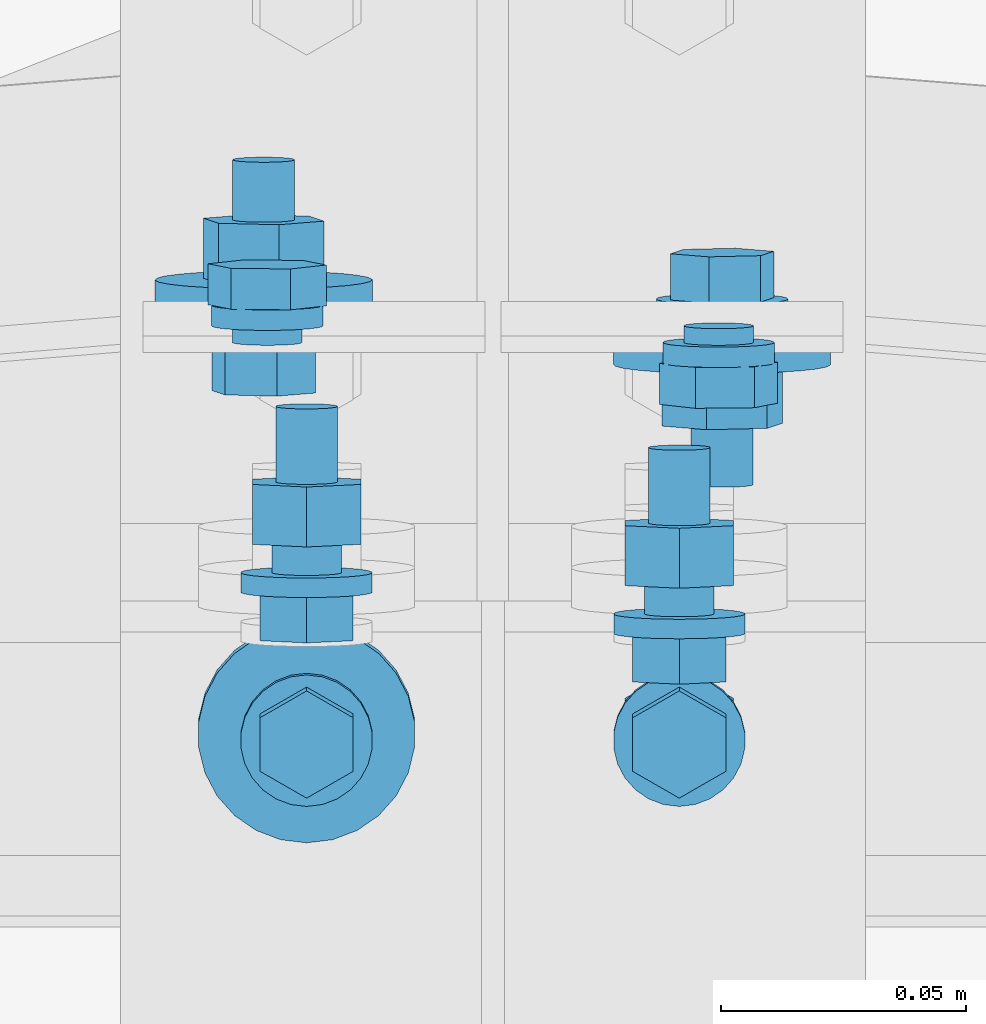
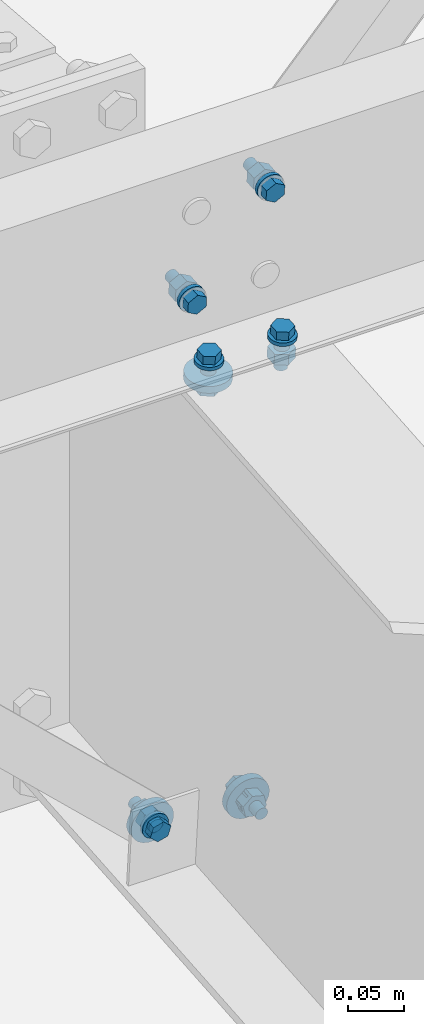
# One storey, part 133 of 185: 8 mechanical fasteners, 5 elements without a shape of their own.
"""IFC2X3 building model written with IfcOpenShell, lengths in millimetres."""

from ifc_helpers import new_model, si_unit, frame, origin_with_axes, origin_2d_with_axis, place, context, subcontext, project, spatial, polyline, circle, outline, extrude, source, transform, mapped, material, type_object, element, aggregate, save


model = new_model("IFC2X3")

# Units and contexts
model_context = context("Model", 3, precision=1e-05, world=origin_with_axes())
body_context = subcontext(model_context, "Body", "Model", "MODEL_VIEW")
ifc_project = project(units=[si_unit("LENGTHUNIT", "METRE", prefix="MILLI"), si_unit("AREAUNIT", "SQUARE_METRE"), si_unit("VOLUMEUNIT", "CUBIC_METRE"), si_unit("MASSUNIT", "GRAM", prefix="KILO"), si_unit("TIMEUNIT", "SECOND"), si_unit("PLANEANGLEUNIT", "RADIAN"), si_unit("SOLIDANGLEUNIT", "STERADIAN"), si_unit("THERMODYNAMICTEMPERATUREUNIT", "DEGREE_CELSIUS"), si_unit("LUMINOUSINTENSITYUNIT", "LUMEN")], contexts=[model_context])

# Site, building, storey
site_placement = place(None, origin_with_axes())
site = spatial("IfcSite", under=ifc_project, at=site_placement, Name="Undefined", CompositionType="ELEMENT")
building_placement = place(site_placement, origin_with_axes())
building = spatial("IfcBuilding", under=site, at=building_placement, Name="Undefined", CompositionType="ELEMENT")
storey_placement = place(building_placement, origin_with_axes())
storey = spatial("IfcBuildingStorey", under=building, at=storey_placement, Name="Undefined", CompositionType="ELEMENT", Elevation=0.0)

# Assembly, mechanical fastener
assembly_1_placement = place(storey_placement, origin_with_axes())
assembly_1 = element("IfcElementAssembly", 1, at=assembly_1_placement, inside=storey, Name="Steel Assembly", AssemblyPlace="NOTDEFINED", PredefinedType="RIGID_FRAME")
ifc_material_1 = material(Name="Undefined")
discrete_accessory_type = type_object("IfcDiscreteAccessoryType", Name="Bolt assembly")
shared_shape_1 = source(origin_with_axes(), body_context, "Body", "SweptSolid", [
    extrude(circle(Radius=7.14374971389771, at=origin_2d_with_axis()), frame((0.0, -1.59000001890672, 0.0), z_axis=(0.0, 1.0, 0.0), x_axis=(1.0, 0.0, 0.0)), (0.0, 0.0, 1.0), 1.7),
    extrude(outline(polyline([(10.9985221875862, 0.0), (5.4992610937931, 9.52499961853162), (-5.4992610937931, 9.52499961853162), (-10.9985221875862, 0.0), (-5.4992610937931, -9.52499961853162), (5.4992610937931, -9.52499961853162), (10.9985221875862, 0.0)])), frame((0.0, -15.0837496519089, 0.0), z_axis=(0.0, 1.0, 0.0), x_axis=(1.0, 0.0, 0.0)), (0.0, 0.0, 1.0), 9.5),
    extrude(circle(Radius=6.34999990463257, at=origin_2d_with_axis()), frame((0.0, -5.5587500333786, 0.0), z_axis=(0.0, 1.0, 0.0), x_axis=(1.0, 0.0, 0.0)), (0.0, 0.0, 1.0), 38.1),
    extrude(circle(Radius=13.4937496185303, at=origin_2d_with_axis()), frame((0.0, -5.5587500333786, 0.0), z_axis=(0.0, 1.0, 0.0), x_axis=(1.0, 0.0, 0.0)), (0.0, 0.0, 1.0), 4.0),
    extrude(circle(Radius=22.2250003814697, at=origin_2d_with_axis()), frame((0.0, 0.0, 0.0), z_axis=(0.0, 1.0, 0.0), x_axis=(1.0, 0.0, 0.0)), (0.0, 0.0, 1.0), 7.9),
    extrude(outline(polyline([(12.8316099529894, 0.0), (6.4158049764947, 11.1125001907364), (-6.4158049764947, 11.1125001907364), (-12.8316099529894, 0.0), (-6.4158049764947, -11.1125001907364), (6.4158049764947, -11.1125001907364), (12.8316099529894, 0.0)])), frame((0.0, 7.93750000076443, 0.0), z_axis=(0.0, 1.0, 0.0), x_axis=(1.0, 0.0, 0.0)), (0.0, 0.0, 1.0), 12.3),
])
mechanical_fastener_1_placement = place(assembly_1_placement, frame((14905.8744956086, 15761.3452081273, 6647.08460517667), z_axis=(0.697745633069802, 0.0594892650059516, -0.713871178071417), x_axis=(0.716345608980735, -0.0579446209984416, 0.695335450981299)))
mechanical_fastener_1 = element("IfcMechanicalFastener", 2, at=mechanical_fastener_1_placement, type_object=discrete_accessory_type, material=ifc_material_1, Name="Bolt assembly", NominalDiameter=12.6999998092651, NominalLength=38.0999984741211, context=body_context, shape_type="MappedRepresentation", body=[
    mapped(shared_shape_1, transform((0.0, 0.0, 0.0))),
])
aggregate(assembly_1, [mechanical_fastener_1])

assembly_2_placement = place(storey_placement, origin_with_axes())
assembly_2 = element("IfcElementAssembly", 3, at=assembly_2_placement, inside=storey, Name="Steel Assembly", AssemblyPlace="NOTDEFINED", PredefinedType="RIGID_FRAME")
shared_shape_2 = source(origin_with_axes(), body_context, "Body", "SweptSolid", [
    extrude(circle(Radius=7.14374971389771, at=origin_2d_with_axis()), frame((0.0, 0.0, 0.0), z_axis=(0.0, 1.0, 0.0), x_axis=(1.0, 0.0, 0.0)), (0.0, 0.0, 1.0), 1.7),
    extrude(outline(polyline([(10.9985221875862, 0.0), (5.4992610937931, 9.52499961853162), (-5.4992610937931, 9.52499961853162), (-10.9985221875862, 0.0), (-5.4992610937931, -9.52499961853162), (5.4992610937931, -9.52499961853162), (10.9985221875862, 0.0)])), frame((0.0, -13.4937496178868, 0.0), z_axis=(0.0, 1.0, 0.0), x_axis=(1.0, 0.0, 0.0)), (0.0, 0.0, 1.0), 9.5),
    extrude(circle(Radius=6.34999990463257, at=origin_2d_with_axis()), frame((0.0, -3.96874999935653, 0.0), z_axis=(0.0, 1.0, 0.0), x_axis=(1.0, 0.0, 0.0)), (0.0, 0.0, 1.0), 38.1),
    extrude(circle(Radius=13.4937496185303, at=origin_2d_with_axis()), frame((0.0, -3.96874999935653, 0.0), z_axis=(0.0, 1.0, 0.0), x_axis=(1.0, 0.0, 0.0)), (0.0, 0.0, 1.0), 4.0),
    extrude(circle(Radius=22.2250003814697, at=origin_2d_with_axis()), frame((0.0, 1.5900000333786, 0.0), z_axis=(0.0, 1.0, 0.0), x_axis=(1.0, 0.0, 0.0)), (0.0, 0.0, 1.0), 7.9),
    extrude(outline(polyline([(12.8316099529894, 0.0), (6.4158049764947, 11.1125001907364), (-6.4158049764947, 11.1125001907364), (-12.8316099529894, 0.0), (-6.4158049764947, -11.1125001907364), (6.4158049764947, -11.1125001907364), (12.8316099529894, 0.0)])), frame((0.0, 9.5275000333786, 0.0), z_axis=(0.0, 1.0, 0.0), x_axis=(1.0, 0.0, 0.0)), (0.0, 0.0, 1.0), 12.3),
])
mechanical_fastener_2_placement = place(assembly_2_placement, frame((14812.1255043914, 15761.3452081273, 6647.08460517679), z_axis=(-0.697745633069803, 0.0594892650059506, -0.713871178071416), x_axis=(-0.716345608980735, -0.0579446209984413, 0.6953354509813)))
mechanical_fastener_2 = element("IfcMechanicalFastener", 4, at=mechanical_fastener_2_placement, type_object=discrete_accessory_type, material=ifc_material_1, Name="Bolt assembly", NominalDiameter=12.6999998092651, NominalLength=38.0999984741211, context=body_context, shape_type="MappedRepresentation", body=[
    mapped(shared_shape_2, transform((0.0, 0.0, 0.0))),
])
aggregate(assembly_2, [mechanical_fastener_2])

# Assembly, mechanical fasteners
assembly_3_placement = place(storey_placement, origin_with_axes())
assembly_3 = element("IfcElementAssembly", 5, at=assembly_3_placement, inside=storey, Name="Steel Assembly", AssemblyPlace="NOTDEFINED", PredefinedType="RIGID_FRAME")
ifc_material_2 = material(Name="7990")
shared_shape_3 = source(origin_with_axes(), body_context, "Body", "SweptSolid", [
    extrude(circle(Radius=7.14374971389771, at=origin_2d_with_axis()), frame((0.0, -3.41600000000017, 0.0), z_axis=(0.0, 1.0, 0.0), x_axis=(1.0, 0.0, 0.0)), (0.0, 0.0, 1.0), 3.5),
    extrude(circle(Radius=11.4299998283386, at=origin_2d_with_axis()), frame((0.0, 0.0, 0.0), z_axis=(0.0, 1.0, 0.0), x_axis=(1.0, 0.0, 0.0)), (0.0, 0.0, 1.0), 4.2),
    extrude(outline(polyline([(12.171698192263, 0.0), (6.08584909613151, 10.5409998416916), (-6.08584909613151, 10.5409998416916), (-12.171698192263, 0.0), (-6.08584909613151, -10.5409998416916), (6.08584909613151, -10.5409998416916), (12.171698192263, 0.0)])), frame((0.0, 4.1909999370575, 0.0), z_axis=(0.0, 1.0, 0.0), x_axis=(1.0, 0.0, 0.0)), (0.0, 0.0, 1.0), 8.4),
])
mechanical_fastener_3_placement = place(assembly_3_placement, frame((14812.84185, 15761.4031527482, 6646.38926972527), z_axis=(0.921635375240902, 0.0322263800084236, -0.386716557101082), x_axis=(-0.388056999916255, 0.0765376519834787, -0.9184518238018)))
mechanical_fastener_3 = element("IfcMechanicalFastener", 6, at=mechanical_fastener_3_placement, type_object=discrete_accessory_type, material=ifc_material_2, Name="Bolt assembly", NominalDiameter=12.6999998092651, NominalLength=38.0999984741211, context=body_context, shape_type="MappedRepresentation", body=[
    mapped(shared_shape_3, transform((0.0, 0.0, 0.0))),
])
shared_shape_4 = source(origin_with_axes(), body_context, "Body", "SweptSolid", [
    extrude(circle(Radius=7.14374971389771, at=origin_2d_with_axis()), frame((0.0, 0.0, 0.0), z_axis=(0.0, 1.0, 0.0), x_axis=(1.0, 0.0, 0.0)), (0.0, 0.0, 1.0), 3.5),
    extrude(circle(Radius=11.4299998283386, at=origin_2d_with_axis()), frame((0.0, 3.41600000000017, 0.0), z_axis=(0.0, 1.0, 0.0), x_axis=(1.0, 0.0, 0.0)), (0.0, 0.0, 1.0), 4.2),
    extrude(outline(polyline([(12.171698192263, 0.0), (6.08584909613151, 10.5409998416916), (-6.08584909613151, 10.5409998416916), (-12.171698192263, 0.0), (-6.08584909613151, -10.5409998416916), (6.08584909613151, -10.5409998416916), (12.171698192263, 0.0)])), frame((0.0, 7.60699993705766, 0.0), z_axis=(0.0, 1.0, 0.0), x_axis=(1.0, 0.0, 0.0)), (0.0, 0.0, 1.0), 8.4),
])
mechanical_fastener_4_placement = place(assembly_3_placement, frame((14905.15815, 15761.4031527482, 6646.38926972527), z_axis=(-0.921635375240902, 0.0322263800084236, -0.386716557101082), x_axis=(0.388056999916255, 0.0765376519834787, -0.9184518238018)))
mechanical_fastener_4 = element("IfcMechanicalFastener", 7, at=mechanical_fastener_4_placement, type_object=discrete_accessory_type, material=ifc_material_2, Name="Bolt assembly", NominalDiameter=12.6999998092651, NominalLength=38.0999984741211, context=body_context, shape_type="MappedRepresentation", body=[
    mapped(shared_shape_4, transform((0.0, 0.0, 0.0))),
])
aggregate(assembly_3, [mechanical_fastener_4, mechanical_fastener_3])

assembly_4_placement = place(storey_placement, origin_with_axes())
assembly_4 = element("IfcElementAssembly", 8, at=assembly_4_placement, inside=storey, Name="Steel Assembly", AssemblyPlace="NOTDEFINED", PredefinedType="RIGID_FRAME")
shared_shape_5 = source(origin_with_axes(), body_context, "Body", "SweptSolid", [
    extrude(circle(Radius=7.14374971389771, at=origin_2d_with_axis()), frame((0.0, 0.0, 0.0), z_axis=(0.0, 1.0, 0.0), x_axis=(1.0, 0.0, 0.0)), (0.0, 0.0, 1.0), 6.5),
    extrude(outline(polyline([(10.9985221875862, 0.0), (5.4992610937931, 9.52499961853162), (-5.4992610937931, 9.52499961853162), (-10.9985221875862, 0.0), (-5.4992610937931, -9.52499961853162), (5.4992610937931, -9.52499961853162), (10.9985221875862, 0.0)])), frame((0.0, -13.4937496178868, 0.0), z_axis=(0.0, 1.0, 0.0), x_axis=(1.0, 0.0, 0.0)), (0.0, 0.0, 1.0), 9.5),
    extrude(circle(Radius=6.34999990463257, at=origin_2d_with_axis()), frame((0.0, -3.96874999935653, 0.0), z_axis=(0.0, 1.0, 0.0), x_axis=(1.0, 0.0, 0.0)), (0.0, 0.0, 1.0), 38.1),
    extrude(circle(Radius=13.4937496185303, at=origin_2d_with_axis()), frame((0.0, -3.96874999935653, 0.0), z_axis=(0.0, 1.0, 0.0), x_axis=(1.0, 0.0, 0.0)), (0.0, 0.0, 1.0), 4.0),
    extrude(outline(polyline([(12.8316099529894, 0.0), (6.4158049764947, 11.1125001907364), (-6.4158049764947, 11.1125001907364), (-12.8316099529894, 0.0), (-6.4158049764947, -11.1125001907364), (6.4158049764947, -11.1125001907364), (12.8316099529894, 0.0)])), frame((0.0, 6.35000000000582, 0.0), z_axis=(0.0, 1.0, 0.0), x_axis=(1.0, 0.0, 0.0)), (0.0, 0.0, 1.0), 12.3),
])
mechanical_fastener_5_placement = place(assembly_4_placement, frame((14820.9, 15710.9094083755, 7252.31420220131), z_axis=(1.0, 0.0, 0.0), x_axis=(0.0, 0.0830454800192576, -0.996545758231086)))
mechanical_fastener_5 = element("IfcMechanicalFastener", 9, at=mechanical_fastener_5_placement, type_object=discrete_accessory_type, material=ifc_material_1, Name="Bolt assembly", NominalDiameter=12.6999998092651, NominalLength=38.0999984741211, context=body_context, shape_type="MappedRepresentation", body=[
    mapped(shared_shape_5, transform((0.0, 0.0, 0.0))),
])
mechanical_fastener_6_placement = place(assembly_4_placement, frame((14897.1, 15702.4719876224, 7353.56325123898), z_axis=(1.0, 0.0, 0.0), x_axis=(0.0, 0.0830454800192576, -0.996545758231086)))
mechanical_fastener_6 = element("IfcMechanicalFastener", 10, at=mechanical_fastener_6_placement, type_object=discrete_accessory_type, material=ifc_material_1, Name="Bolt assembly", NominalDiameter=12.6999998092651, NominalLength=38.0999984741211, context=body_context, shape_type="MappedRepresentation", body=[
    mapped(shared_shape_5, transform((0.0, 0.0, 0.0))),
])
aggregate(assembly_4, [mechanical_fastener_5, mechanical_fastener_6])

assembly_5_placement = place(storey_placement, origin_with_axes())
assembly_5 = element("IfcElementAssembly", 11, at=assembly_5_placement, inside=storey, Name="Steel Assembly", AssemblyPlace="NOTDEFINED", PredefinedType="RIGID_FRAME")
shared_shape_6 = source(origin_with_axes(), body_context, "Body", "SweptSolid", [
    extrude(circle(Radius=7.14374971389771, at=origin_2d_with_axis()), frame((0.0, -0.0238014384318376, 0.0), z_axis=(0.0, 1.0, 0.0), x_axis=(1.0, 0.0, 0.0)), (0.0, 0.0, 1.0), 8.0),
    extrude(circle(Radius=7.14374971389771, at=origin_2d_with_axis()), frame((0.0, -3.08000006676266, 0.0), z_axis=(0.0, 1.0, 0.0), x_axis=(1.0, 0.0, 0.0)), (0.0, 0.0, 1.0), 3.2),
    extrude(circle(Radius=7.14374971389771, at=origin_2d_with_axis()), frame((0.0, -3.08000006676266, 0.0), z_axis=(0.0, 1.0, 0.0), x_axis=(1.0, 0.0, 0.0)), (0.0, 0.0, 1.0), 3.2),
    extrude(outline(polyline([(10.9985221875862, 0.0), (5.4992610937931, 9.52499961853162), (-5.4992610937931, 9.52499961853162), (-10.9985221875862, 0.0), (-5.4992610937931, -9.52499961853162), (5.4992610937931, -9.52499961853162), (10.9985221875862, 0.0)])), frame((0.0, -16.6737496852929, 0.0), z_axis=(0.0, 1.0, 0.0), x_axis=(1.0, 0.0, 0.0)), (0.0, 0.0, 1.0), 9.5),
    extrude(circle(Radius=6.34999990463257, at=origin_2d_with_axis()), frame((0.0, -7.14875006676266, 0.0), z_axis=(0.0, 1.0, 0.0), x_axis=(1.0, 0.0, 0.0)), (0.0, 0.0, 1.0), 38.1),
    extrude(circle(Radius=13.4937496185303, at=origin_2d_with_axis()), frame((0.0, -7.14875006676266, 0.0), z_axis=(0.0, 1.0, 0.0), x_axis=(1.0, 0.0, 0.0)), (0.0, 0.0, 1.0), 4.0),
    extrude(circle(Radius=22.2250003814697, at=origin_2d_with_axis()), frame((0.0, 7.95019856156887, 0.0), z_axis=(0.0, 1.0, 0.0), x_axis=(1.0, 0.0, 0.0)), (0.0, 0.0, 1.0), 7.9),
    extrude(outline(polyline([(12.8316099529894, 0.0), (6.4158049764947, 11.1125001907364), (-6.4158049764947, 11.1125001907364), (-12.8316099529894, 0.0), (-6.4158049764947, -11.1125001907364), (6.4158049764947, -11.1125001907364), (12.8316099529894, 0.0)])), frame((0.0, 15.8876985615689, 0.0), z_axis=(0.0, 1.0, 0.0), x_axis=(1.0, 0.0, 0.0)), (0.0, 0.0, 1.0), 12.3),
])
mechanical_fastener_7_placement = place(assembly_5_placement, frame((14820.9, 15677.1597253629, 7198.52564490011), z_axis=(1.0, 0.0, 0.0), x_axis=(0.0, -0.996545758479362, -0.0830454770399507)))
mechanical_fastener_7 = element("IfcMechanicalFastener", 12, at=mechanical_fastener_7_placement, type_object=discrete_accessory_type, material=ifc_material_1, Name="Bolt assembly", NominalDiameter=12.6999998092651, NominalLength=38.0999984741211, context=body_context, shape_type="MappedRepresentation", body=[
    mapped(shared_shape_6, transform((0.0, 0.0, 0.0))),
])
shared_shape_7 = source(origin_with_axes(), body_context, "Body", "SweptSolid", [
    extrude(circle(Radius=7.14374971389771, at=origin_2d_with_axis()), frame((0.0, -0.0238014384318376, 0.0), z_axis=(0.0, 1.0, 0.0), x_axis=(1.0, 0.0, 0.0)), (0.0, 0.0, 1.0), 8.0),
    extrude(circle(Radius=7.14374971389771, at=origin_2d_with_axis()), frame((0.0, -3.08000006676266, 0.0), z_axis=(0.0, 1.0, 0.0), x_axis=(1.0, 0.0, 0.0)), (0.0, 0.0, 1.0), 3.2),
    extrude(circle(Radius=7.14374971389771, at=origin_2d_with_axis()), frame((0.0, -3.08000006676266, 0.0), z_axis=(0.0, 1.0, 0.0), x_axis=(1.0, 0.0, 0.0)), (0.0, 0.0, 1.0), 3.2),
    extrude(outline(polyline([(10.9985221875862, 0.0), (5.4992610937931, 9.52499961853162), (-5.4992610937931, 9.52499961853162), (-10.9985221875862, 0.0), (-5.4992610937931, -9.52499961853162), (5.4992610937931, -9.52499961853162), (10.9985221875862, 0.0)])), frame((0.0, -16.6737496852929, 0.0), z_axis=(0.0, 1.0, 0.0), x_axis=(1.0, 0.0, 0.0)), (0.0, 0.0, 1.0), 9.5),
    extrude(circle(Radius=6.34999990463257, at=origin_2d_with_axis()), frame((0.0, -7.14875006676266, 0.0), z_axis=(0.0, 1.0, 0.0), x_axis=(1.0, 0.0, 0.0)), (0.0, 0.0, 1.0), 38.1),
    extrude(circle(Radius=13.4937496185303, at=origin_2d_with_axis()), frame((0.0, -7.14875006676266, 0.0), z_axis=(0.0, 1.0, 0.0), x_axis=(1.0, 0.0, 0.0)), (0.0, 0.0, 1.0), 4.0),
    extrude(outline(polyline([(12.8316099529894, 0.0), (6.4158049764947, 11.1125001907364), (-6.4158049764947, 11.1125001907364), (-12.8316099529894, 0.0), (-6.4158049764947, -11.1125001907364), (6.4158049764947, -11.1125001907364), (12.8316099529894, 0.0)])), frame((0.0, 7.95019856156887, 0.0), z_axis=(0.0, 1.0, 0.0), x_axis=(1.0, 0.0, 0.0)), (0.0, 0.0, 1.0), 12.3),
])
mechanical_fastener_8_placement = place(assembly_5_placement, frame((14897.1, 15677.1597253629, 7198.52564490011), z_axis=(1.0, 0.0, 0.0), x_axis=(0.0, -0.996545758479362, -0.0830454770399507)))
mechanical_fastener_8 = element("IfcMechanicalFastener", 13, at=mechanical_fastener_8_placement, type_object=discrete_accessory_type, material=ifc_material_1, Name="Bolt assembly", NominalDiameter=12.6999998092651, NominalLength=38.0999984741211, context=body_context, shape_type="MappedRepresentation", body=[
    mapped(shared_shape_7, transform((0.0, 0.0, 0.0))),
])
aggregate(assembly_5, [mechanical_fastener_7, mechanical_fastener_8])

save(model, "model.ifc")
